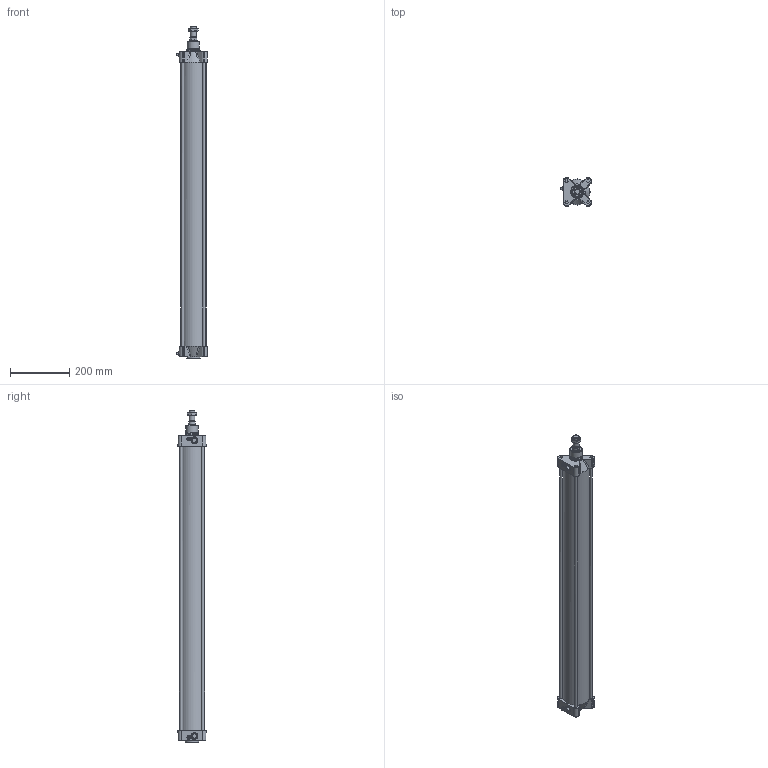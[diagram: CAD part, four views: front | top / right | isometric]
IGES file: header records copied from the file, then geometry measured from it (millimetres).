
Global section: file name: 1393_080_0900_01; native system: Autodesk Inventor 2014; preprocessor: unknown; author: A. Manieri; date: 20151130.150837; units: millimetre
Bounding box: 104 x 95 x 1118 mm (x, y, z)
Volume: 2256598.9 mm3; surface area: 782140.8 mm2
Topology: 3 solids, 5 shells, 233 faces, 578 edges, 377 vertices
Faces by surface type: bspline 233
